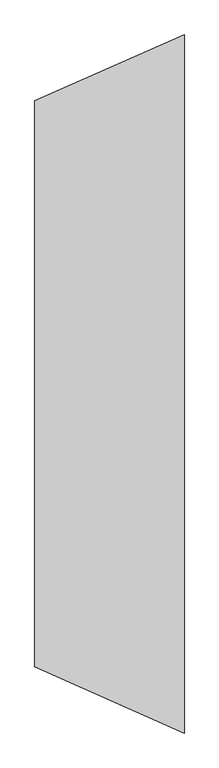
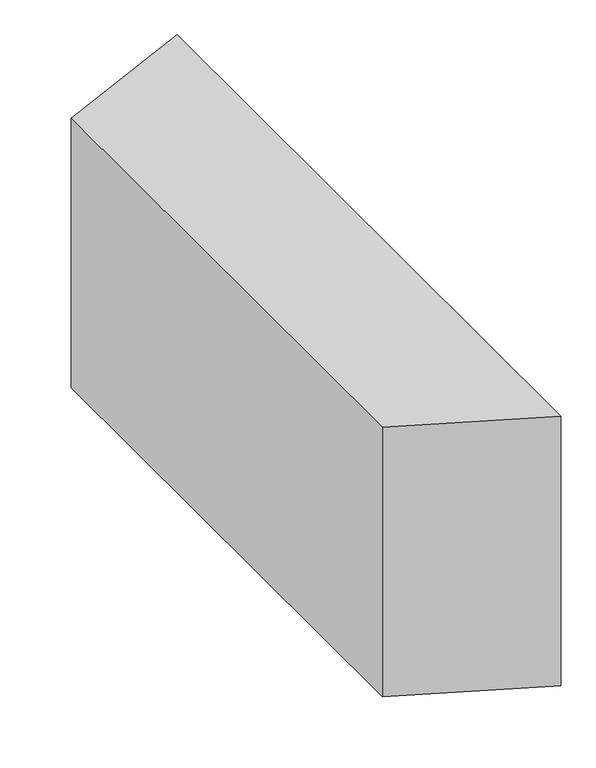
"""IFC4 building model written with IfcOpenShell, lengths in millimetres: duct fitting geometry, ADSK_ПереходникВоздуховодов_Прямоугольный1 : Стандартное 2."""

import ifcopenshell
import ifcopenshell.guid

model = None  # the IFC model being written
_history = None  # IfcOwnerHistory: only IFC2X3 demands one
_inside = {}  # id of a spatial element -> (the spatial element, [elements in it])
_under = {}  # id of a project, library or spatial element -> (it, [spatial elements below it])
_declared = {}  # id of a project -> (the project, [libraries it declares])
_typed = {}  # id of a type object -> (the type object, [elements of that type])
_made_of = {}  # id of a material, layer set ... -> (it, [elements and type objects made of it])


def new_model(schema):
    """Start an empty IFC model of exactly this schema.

    Asked for "IFC4X3", IfcOpenShell would pick the latest addendum, in which some entities
    have other attributes; the version numbers below select the first issue.
    IFC2X3 requires an IfcOwnerHistory on every rooted entity: one is made here for all.
    """
    global model, _history
    if schema == "IFC4X3":
        model = ifcopenshell.file(schema_version=(4, 3, 0, 0))
    else:
        model = ifcopenshell.file(schema=schema)
    _inside.clear()
    _under.clear()
    _declared.clear()
    _typed.clear()
    _made_of.clear()
    _history = None
    if model.schema == "IFC2X3":
        org = make("IfcOrganization", Name="unknown")
        user = make(
            "IfcPersonAndOrganization",
            ThePerson=make("IfcPerson", FamilyName="unknown"),
            TheOrganization=org,
        )
        app = make(
            "IfcApplication",
            ApplicationDeveloper=org,
            Version="unknown",
            ApplicationFullName="unknown",
            ApplicationIdentifier="unknown",
        )
        _history = make(
            "IfcOwnerHistory",
            OwningUser=user,
            OwningApplication=app,
            ChangeAction="ADDED",
            CreationDate=0,
        )
    return model


def make(cls, **values):
    """One entity of the class cls with the attributes given. An attribute that is None is left unset."""
    return model.create_entity(
        cls, **{name: value for name, value in values.items() if value is not None}
    )


def rooted(cls, **values):
    """An entity with a GlobalId (a new one), such as an element, a storey or a relation."""
    return make(cls, GlobalId=ifcopenshell.guid.new(), OwnerHistory=_history, **values)


def si_unit(unit_type, name, prefix=None):
    """IfcSIUnit, for example si_unit("LENGTHUNIT", "METRE", prefix="MILLI")."""
    return make("IfcSIUnit", UnitType=unit_type, Prefix=prefix, Name=name)


def assignment(units):
    """IfcUnitAssignment: the units of a project."""
    return None if units is None else make("IfcUnitAssignment", Units=units)


def point(xyz):
    """IfcCartesianPoint."""
    return None if xyz is None else make("IfcCartesianPoint", Coordinates=xyz)


def direction(xyz):
    """IfcDirection."""
    return None if xyz is None else make("IfcDirection", DirectionRatios=xyz)


def frame(location, z_axis=None, x_axis=None):
    """IfcAxis2Placement3D, a coordinate frame: its origin and axes. An axis left out is left unset."""
    return make(
        "IfcAxis2Placement3D",
        Location=point(location),
        Axis=direction(z_axis),
        RefDirection=direction(x_axis),
    )


def origin():
    """The frame at (0, 0, 0) with its axes left unset."""
    return frame((0.0, 0.0, 0.0))


def place(relative_to, where):
    """IfcLocalPlacement: puts the frame where relative to a parent placement (None: the world)."""
    return make(
        "IfcLocalPlacement", PlacementRelTo=relative_to, RelativePlacement=where
    )


def context(
    kind, dimensions, precision=None, world=None, true_north=None, identifier=None
):
    """IfcGeometricRepresentationContext, for example the 3D "Model" context."""
    return make(
        "IfcGeometricRepresentationContext",
        ContextIdentifier=identifier,
        ContextType=kind,
        CoordinateSpaceDimension=dimensions,
        Precision=precision,
        WorldCoordinateSystem=world,
        TrueNorth=true_north,
    )


def project(units=None, contexts=None):
    """IfcProject with its units and contexts."""
    return rooted(
        "IfcProject",
        Name="project",
        RepresentationContexts=contexts,
        UnitsInContext=assignment(units),
    )


def spatial(cls, under=None, at=None, **own):
    """A site, building, storey or space (cls), placed at a placement, below another one or the project."""
    s = rooted(cls, ObjectPlacement=at, **own)
    if under is not None:
        _under.setdefault(under.id(), (under, []))[1].append(s)
    return s


def polyline(points):
    """IfcPolyline through the points."""
    return make("IfcPolyline", Points=[point(p) for p in points])


def outline(outer, holes=None, kind="AREA"):
    """IfcArbitraryClosedProfileDef: a profile drawn as a closed curve; with holes, ...WithVoids."""
    if holes is None:
        return make("IfcArbitraryClosedProfileDef", ProfileType=kind, OuterCurve=outer)
    return make(
        "IfcArbitraryProfileDefWithVoids",
        ProfileType=kind,
        OuterCurve=outer,
        InnerCurves=holes,
    )


def extrude(swept, where, along, depth):
    """IfcExtrudedAreaSolid: the profile swept, set in the frame where, extruded along a direction by depth."""
    return make(
        "IfcExtrudedAreaSolid",
        SweptArea=swept,
        Position=where,
        ExtrudedDirection=direction(along),
        Depth=depth,
    )


def shape(context_of_items, identifier, shape_type, items):
    """IfcShapeRepresentation: the items that make up one representation, for example the "Body"."""
    return make(
        "IfcShapeRepresentation",
        ContextOfItems=context_of_items,
        RepresentationIdentifier=identifier,
        RepresentationType=shape_type,
        Items=items,
    )


def source(mapping_origin, context_of_items, identifier, shape_type, items):
    """IfcRepresentationMap: a shape defined once, which mapped items show again and again."""
    return make(
        "IfcRepresentationMap",
        MappingOrigin=mapping_origin,
        MappedRepresentation=shape(context_of_items, identifier, shape_type, items),
    )


def transform(
    local_origin,
    x_axis=None,
    y_axis=None,
    z_axis=None,
    scale=None,
    scale2=None,
    scale3=None,
    uniform=True,
):
    """IfcCartesianTransformationOperator3D, or its non-uniform kind. x_axis, y_axis, z_axis: its Axis1, 2, 3."""
    if uniform:
        return make(
            "IfcCartesianTransformationOperator3D",
            Axis1=direction(x_axis),
            Axis2=direction(y_axis),
            LocalOrigin=point(local_origin),
            Scale=scale,
            Axis3=direction(z_axis),
        )
    return make(
        "IfcCartesianTransformationOperator3DnonUniform",
        Axis1=direction(x_axis),
        Axis2=direction(y_axis),
        LocalOrigin=point(local_origin),
        Scale=scale,
        Axis3=direction(z_axis),
        Scale2=scale2,
        Scale3=scale3,
    )


def mapped(mapping_source, mapping_target):
    """IfcMappedItem: shows the shape of a source again, moved by a transform."""
    return make(
        "IfcMappedItem", MappingSource=mapping_source, MappingTarget=mapping_target
    )


def made_of(thing, what):
    """Note that an element or type object is made of a material, layer set ...; save() writes the relation."""
    if what is not None:
        _made_of.setdefault(what.id(), (what, []))[1].append(thing)
    return thing


def element(
    cls,
    number,
    at=None,
    inside=None,
    cuts=None,
    type_object=None,
    material=None,
    context=None,
    identifier="Body",
    shape_type=None,
    held_by="IfcProductDefinitionShape",
    body=None,
    shapes=None,
    **own,
):
    """One element of the class cls, such as IfcWall. Its Tag is "e" and its number.

    at: its placement. inside: the storey or other place that contains it. cuts: it is an
    opening in that element (IfcRelVoidsElement). A single representation is given by context,
    identifier, shape_type and body (its items); several are given by shapes. held_by: the class
    of the entity that holds the representations. save() writes the other relations.
    """
    e = rooted(cls, Tag="e%d" % number, ObjectPlacement=at, **own)
    if body is not None:
        shapes = [shape(context, identifier, shape_type, body)]
    if shapes is not None:
        e.Representation = make(held_by, Representations=shapes)
    if inside is not None:
        _inside.setdefault(inside.id(), (inside, []))[1].append(e)
    if cuts is not None:
        rooted(
            "IfcRelVoidsElement", RelatingBuildingElement=cuts, RelatedOpeningElement=e
        )
    if type_object is not None:
        _typed.setdefault(type_object.id(), (type_object, []))[1].append(e)
    return made_of(e, material)


def aggregate(whole, parts):
    """IfcRelAggregates: a whole, such as a stair, and the parts it consists of."""
    return rooted("IfcRelAggregates", RelatingObject=whole, RelatedObjects=parts)


def save(model, path):
    """Write the relations noted so far, then the file.

    IfcRelAggregates (storeys below a building ...), IfcRelContainedInSpatialStructure (elements
    in a storey), IfcRelDefinesByType, IfcRelAssociatesMaterial and IfcRelDeclares: one each for
    every whole, place, type object, material and project.
    """
    for whole, parts in _under.values():
        aggregate(whole, parts)
    for where, things in _inside.values():
        rooted(
            "IfcRelContainedInSpatialStructure",
            RelatedElements=things,
            RelatingStructure=where,
        )
    for kind, things in _typed.values():
        rooted("IfcRelDefinesByType", RelatedObjects=things, RelatingType=kind)
    for what, things in _made_of.values():
        rooted("IfcRelAssociatesMaterial", RelatedObjects=things, RelatingMaterial=what)
    for by, libraries in _declared.values():
        rooted("IfcRelDeclares", RelatingContext=by, RelatedDefinitions=libraries)
    model.write(path)


def duct_fitting_d738778a(model_context):
    return source(origin(), model_context, "Body", "SweptSolid", [
        extrude(outline(polyline([(0.0, -567.5), (0.0, 567.5), (300.0, 700.0), (300.0, -700.0), (0.0, -567.5)])), frame((0.0, 0.0, -300.0), z_axis=(0.0, 0.0, 1.0), x_axis=(1.0, 0.0, 0.0)), (0.0, 0.0, 1.0), 600.0),
    ])


if __name__ == "__main__":
    model = new_model("IFC4")
    model_context = context("Model", 3, world=origin())
    ifc_project = project(units=[si_unit("LENGTHUNIT", "METRE", prefix="MILLI")], contexts=[model_context])
    site = spatial("IfcSite", under=ifc_project)
    building = spatial("IfcBuilding", under=site)
    placement = place(None, origin())
    duct_fitting_shape = duct_fitting_d738778a(model_context)
    element("IfcDuctFitting", 1, ObjectType="ADSK_ПереходникВоздуховодов_Прямоугольный1 : Стандартное 2", at=placement, inside=building, context=model_context, shape_type="MappedRepresentation", body=[
        mapped(duct_fitting_shape, transform((0.0, 0.0, 0.0), x_axis=(1.0, 0.0, 0.0), y_axis=(0.0, 1.0, 0.0), z_axis=(0.0, 0.0, 1.0))),
    ])
    save(model, "model.ifc")
